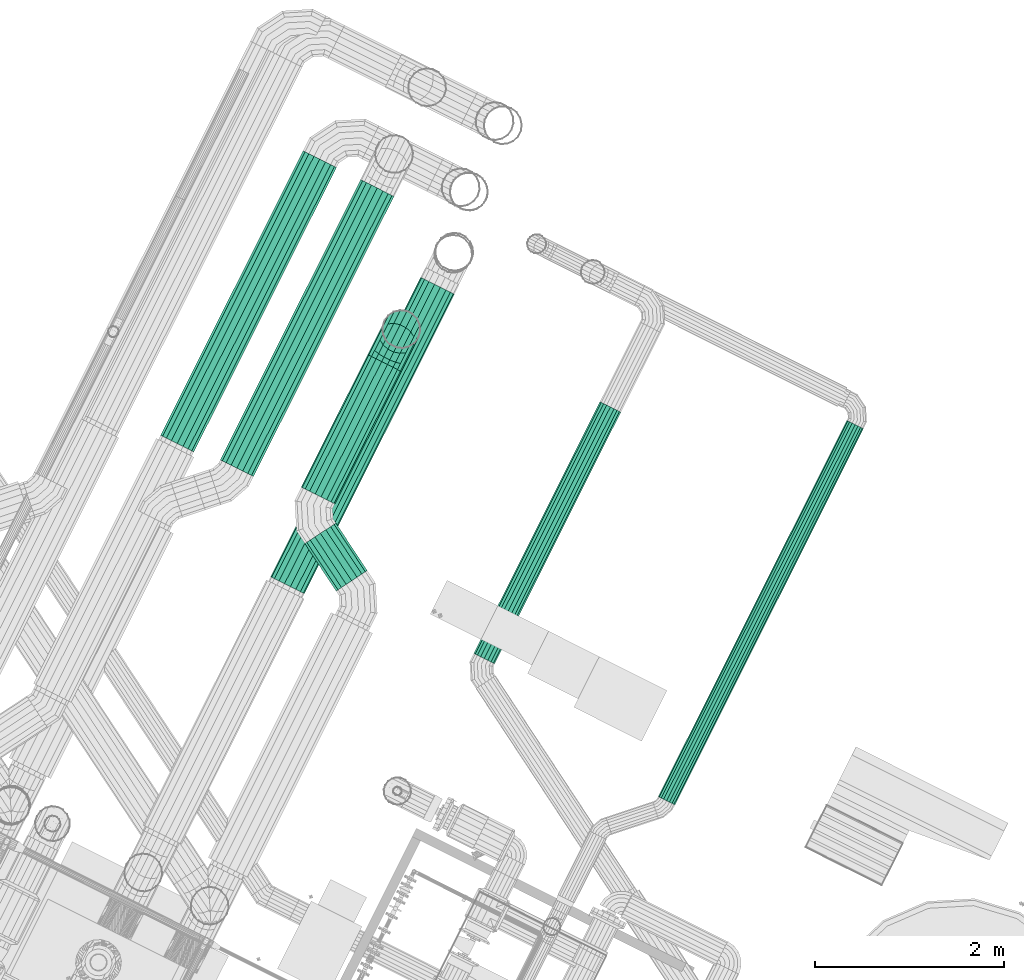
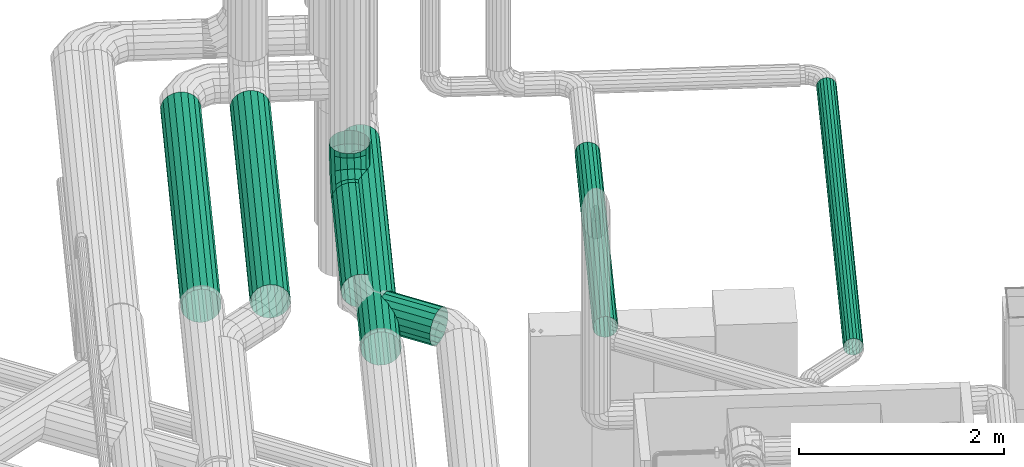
# One storey, part 25 of 206: 7 flow segments, 1 flow fitting.
"""IFC2X3 building model written with IfcOpenShell, lengths in metres."""

from ifc_helpers import new_model, si_unit, derived_unit, direction, frame, origin, place, context, subcontext, project, spatial, face_set, surface_model, source, transform, mapped, material, type_object, type_shapes, element, save


model = new_model("IFC2X3")

# Units and contexts
model_context = context("Model", 3, precision=5.2338327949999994e-05, world=origin(), true_north=direction((0.0, 1.0)))
body_context = subcontext(model_context, "Body", "Model", "MODEL_VIEW")
ifc_project = project(units=[si_unit("LENGTHUNIT", "METRE"), si_unit("AREAUNIT", "SQUARE_METRE"), si_unit("VOLUMEUNIT", "CUBIC_METRE"), si_unit("MASSUNIT", "GRAM", prefix="KILO"), si_unit("PLANEANGLEUNIT", "RADIAN"), derived_unit("THERMALTRANSMITTANCEUNIT", [(si_unit("MASSUNIT", "GRAM", prefix="KILO"), 1), (si_unit("THERMODYNAMICTEMPERATUREUNIT", "KELVIN"), -1), (si_unit("TIMEUNIT", "SECOND"), -3)])], contexts=[model_context])

# Site, building, storey
site_placement = place(None, frame((0.0, 0.0, 0.0), z_axis=(0.0, 0.0, 1.0), x_axis=(0.8939966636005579, -0.4480736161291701, 0.0)))
site = spatial("IfcSite", under=ifc_project, at=site_placement, Name="Default", CompositionType="ELEMENT")
building_placement = place(site_placement, origin())
building = spatial("IfcBuilding", under=site, at=building_placement, CompositionType="ELEMENT")
storey_placement = place(building_placement, origin())
storey = spatial("IfcBuildingStorey", under=building, at=storey_placement, Name="Erdgeschoss", CompositionType="ELEMENT", Elevation=0.0)

# Flow segment
ifc_material = material(Name="IfcSurfaceStyle #251447")
distribution_element_type_1 = type_object("IfcDistributionElementType", Name="Wickelfalzrohr 293792:Wickelfalzrohr 293792", material=ifc_material)
shared_shape_1 = source(origin(), body_context, "Body", "SurfaceModel", [
    surface_model("IfcFaceBasedSurfaceModel", [(28.73772098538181, 12.068093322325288, 2.0750000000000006), (28.694968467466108, 12.068093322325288, 2.082538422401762), (28.694968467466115, 15.044603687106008, 2.082538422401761), (28.737720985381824, 15.044603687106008, 2.0749999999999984), (28.657372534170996, 12.068093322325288, 2.104244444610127), (28.657372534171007, 15.044603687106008, 2.1042444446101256), (28.62946780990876, 12.068093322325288, 2.137500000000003), (28.629467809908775, 15.044603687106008, 2.137500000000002), (28.61462001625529, 12.068093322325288, 2.178293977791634), (28.6146200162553, 15.044603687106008, 2.178293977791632), (28.614620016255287, 12.068093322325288, 2.2217060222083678), (28.614620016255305, 15.044603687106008, 2.2217060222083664), (28.629467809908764, 12.068093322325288, 2.262500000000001), (28.629467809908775, 15.04460368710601, 2.262499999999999), (28.657372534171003, 12.068093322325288, 2.2957555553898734), (28.65737253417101, 15.044603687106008, 2.2957555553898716), (28.694968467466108, 12.068093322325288, 2.3174615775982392), (28.69496846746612, 15.044603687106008, 2.3174615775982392), (28.737720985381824, 12.068093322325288, 2.3249999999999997), (28.737720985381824, 15.044603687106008, 2.324999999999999), (28.780473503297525, 12.068093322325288, 2.3174615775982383), (28.780473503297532, 15.044603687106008, 2.3174615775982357), (28.818069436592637, 12.068093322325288, 2.2957555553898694), (28.818069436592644, 15.044603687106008, 2.2957555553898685), (28.845974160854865, 12.068093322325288, 2.2624999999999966), (28.845974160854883, 15.044603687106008, 2.2624999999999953), (28.86082195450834, 12.068093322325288, 2.221706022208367), (28.860821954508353, 15.044603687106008, 2.221706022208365), (28.86082195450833, 12.068093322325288, 2.178293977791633), (28.860821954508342, 15.044603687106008, 2.178293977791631), (28.845974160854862, 12.068093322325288, 2.1374999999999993), (28.84597416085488, 15.044603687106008, 2.1374999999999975), (28.818069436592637, 12.068093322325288, 2.104244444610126), (28.818069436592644, 15.044603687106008, 2.1042444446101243), (28.780473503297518, 12.068093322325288, 2.082538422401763), (28.78047350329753, 15.044603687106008, 2.08253842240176)], [face_set([[[0, 1, 2, 3]], [[1, 4, 5, 2]], [[4, 6, 7, 5]], [[6, 8, 9, 7]], [[8, 10, 11, 9]], [[10, 12, 13, 11]], [[12, 14, 15, 13]], [[14, 16, 17, 15]], [[16, 18, 19, 17]], [[18, 20, 21, 19]], [[20, 22, 23, 21]], [[22, 24, 25, 23]], [[24, 26, 27, 25]], [[26, 28, 29, 27]], [[28, 30, 31, 29]], [[30, 32, 33, 31]], [[32, 34, 35, 33]], [[34, 0, 3, 35]]])]),
])
type_shapes(distribution_element_type_1, [shared_shape_1])
flow_segment_1_placement = place(storey_placement, origin())
element("IfcFlowSegment", 1, at=flow_segment_1_placement, inside=storey, type_object=distribution_element_type_1, material=ifc_material, Name="Wickelfalzrohr", ObjectType="Wickelfalzrohr", context=body_context, shape_type="MappedRepresentation", body=[
    mapped(shared_shape_1, transform((0.0, 0.0, 0.0), scale=1.0)),
])

# Flow fitting
distribution_element_type_2 = type_object("IfcDistributionElementType", Name="Segmentbogen 4 teilig 294590:Segmentbogen 4 teilig 294590", material=ifc_material)
shared_shape_2 = source(origin(), body_context, "Body", "SurfaceModel", [
    surface_model("IfcFaceBasedSurfaceModel", [(26.194161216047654, 14.388691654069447, 2.1999999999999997), (26.206222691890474, 14.388691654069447, 2.268404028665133), (26.206222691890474, 14.47754252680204, 2.268404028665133), (26.194161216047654, 14.495871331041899, 2.2), (26.24095232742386, 14.388691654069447, 2.3285575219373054), (26.24095232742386, 14.46142444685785, 2.3285575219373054), (26.29416121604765, 14.388691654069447, 2.3732050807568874), (26.29416121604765, 14.449461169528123, 2.3732050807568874), (26.35943158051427, 14.388691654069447, 2.396961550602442), (26.35943158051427, 14.443095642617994, 2.396961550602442), (26.428890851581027, 14.388691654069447, 2.396961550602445), (26.428890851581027, 14.443095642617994, 2.396961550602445), (26.494161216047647, 14.388691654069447, 2.3732050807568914), (26.494161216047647, 14.449461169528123, 2.3732050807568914), (26.547370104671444, 14.388691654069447, 2.3285575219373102), (26.547370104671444, 14.46142444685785, 2.3285575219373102), (26.58209974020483, 14.388691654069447, 2.268404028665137), (26.58209974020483, 14.477542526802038, 2.268404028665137), (26.594161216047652, 14.388691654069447, 2.2000000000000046), (26.59416121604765, 14.495871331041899, 2.1999999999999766), (26.58209974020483, 14.388691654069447, 2.1315959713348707), (26.58209974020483, 14.514200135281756, 2.1315959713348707), (26.547370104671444, 14.388691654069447, 2.071442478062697), (26.547370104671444, 14.530318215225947, 2.071442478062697), (26.494161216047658, 14.388691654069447, 2.026794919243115), (26.494161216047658, 14.542281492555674, 2.026794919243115), (26.428890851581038, 14.388691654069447, 2.0030384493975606), (26.428890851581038, 14.548647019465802, 2.0030384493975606), (26.359431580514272, 14.388691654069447, 2.00303844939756), (26.359431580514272, 14.548647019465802, 2.00303844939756), (26.294161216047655, 14.388691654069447, 2.026794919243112), (26.294161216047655, 14.542281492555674, 2.026794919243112), (26.240952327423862, 14.388691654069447, 2.0714424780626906), (26.240952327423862, 14.530318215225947, 2.0714424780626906), (26.20622269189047, 14.388691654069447, 2.131595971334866), (26.20622269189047, 14.514200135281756, 2.131595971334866), (26.20622269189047, 14.631436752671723, 2.3572549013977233), (26.194161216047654, 14.681511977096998, 2.307179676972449), (26.240952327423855, 14.587401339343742, 2.4012903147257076), (26.29416121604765, 14.554717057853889, 2.4339745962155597), (26.359431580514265, 14.537326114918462, 2.4513655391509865), (26.428890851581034, 14.537326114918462, 2.451365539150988), (26.494161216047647, 14.554717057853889, 2.4339745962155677), (26.547370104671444, 14.58740133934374, 2.4012903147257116), (26.582099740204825, 14.631436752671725, 2.3572549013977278), (26.59416121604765, 14.681511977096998, 2.3071796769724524), (26.582099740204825, 14.731587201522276, 2.257104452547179), (26.547370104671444, 14.77562261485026, 2.213069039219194), (26.494161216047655, 14.808306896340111, 2.1803847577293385), (26.428890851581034, 14.825697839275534, 2.1629938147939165), (26.35943158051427, 14.825697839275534, 2.162993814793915), (26.294161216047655, 14.808306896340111, 2.1803847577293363), (26.240952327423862, 14.77562261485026, 2.2130690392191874), (26.206222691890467, 14.731587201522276, 2.257104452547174), (26.206222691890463, 14.720287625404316, 2.51114912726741), (26.194161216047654, 14.788691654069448, 2.49282032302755), (26.240952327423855, 14.660134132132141, 2.5272672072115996), (26.29416121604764, 14.61548657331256, 2.539230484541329), (26.35943158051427, 14.591730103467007, 2.545596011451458), (26.428890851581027, 14.591730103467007, 2.545596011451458), (26.494161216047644, 14.61548657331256, 2.5392304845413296), (26.547370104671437, 14.660134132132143, 2.5272672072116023), (26.582099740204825, 14.720287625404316, 2.5111491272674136), (26.594161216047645, 14.788691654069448, 2.4928203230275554), (26.58209974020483, 14.857095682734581, 2.4744915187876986), (26.547370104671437, 14.917249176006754, 2.4583734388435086), (26.494161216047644, 14.961896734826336, 2.4464101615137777), (26.428890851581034, 14.985653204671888, 2.440044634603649), (26.359431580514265, 14.985653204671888, 2.440044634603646), (26.294161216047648, 14.961896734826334, 2.446410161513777), (26.24095232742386, 14.917249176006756, 2.4583734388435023), (26.20622269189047, 14.857095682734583, 2.4744915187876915), (26.206222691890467, 14.720287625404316, 2.6), (26.194161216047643, 14.788691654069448, 2.6), (26.240952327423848, 14.660134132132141, 2.6), (26.29416121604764, 14.61548657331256, 2.6), (26.359431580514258, 14.591730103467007, 2.6000000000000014), (26.428890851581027, 14.591730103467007, 2.6000000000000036), (26.49416121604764, 14.61548657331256, 2.6000000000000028), (26.547370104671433, 14.660134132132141, 2.6000000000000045), (26.582099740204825, 14.720287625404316, 2.600000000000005), (26.594161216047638, 14.788691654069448, 2.6000000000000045), (26.58209974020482, 14.857095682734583, 2.600000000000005), (26.547370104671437, 14.917249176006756, 2.6000000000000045), (26.49416121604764, 14.961896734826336, 2.6000000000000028), (26.428890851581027, 14.98565320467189, 2.6000000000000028), (26.359431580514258, 14.985653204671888, 2.6000000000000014), (26.29416121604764, 14.961896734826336, 2.6), (26.240952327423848, 14.917249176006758, 2.6), (26.206222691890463, 14.857095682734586, 2.6)], [face_set([[[0, 1, 2, 3]], [[1, 4, 5, 2]], [[4, 6, 7, 5]], [[6, 8, 9, 7]], [[8, 10, 11, 9]], [[10, 12, 13, 11]], [[12, 14, 15, 13]], [[14, 16, 17, 15]], [[16, 18, 19, 17]], [[18, 20, 21, 19]], [[20, 22, 23, 21]], [[22, 24, 25, 23]], [[24, 26, 27, 25]], [[26, 28, 29, 27]], [[28, 30, 31, 29]], [[30, 32, 33, 31]], [[32, 34, 35, 33]], [[34, 0, 3, 35]], [[3, 2, 36, 37]], [[2, 5, 38, 36]], [[5, 7, 39, 38]], [[7, 9, 40, 39]], [[9, 11, 41, 40]], [[11, 13, 42, 41]], [[13, 15, 43, 42]], [[15, 17, 44, 43]], [[17, 19, 45, 44]], [[19, 21, 46, 45]], [[21, 23, 47, 46]], [[23, 25, 48, 47]], [[25, 27, 49, 48]], [[27, 29, 50, 49]], [[29, 31, 51, 50]], [[31, 33, 52, 51]], [[33, 35, 53, 52]], [[35, 3, 37, 53]], [[37, 36, 54, 55]], [[36, 38, 56, 54]], [[38, 39, 57, 56]], [[39, 40, 58, 57]], [[40, 41, 59, 58]], [[41, 42, 60, 59]], [[42, 43, 61, 60]], [[43, 44, 62, 61]], [[44, 45, 63, 62]], [[45, 46, 64, 63]], [[46, 47, 65, 64]], [[47, 48, 66, 65]], [[48, 49, 67, 66]], [[49, 50, 68, 67]], [[50, 51, 69, 68]], [[51, 52, 70, 69]], [[52, 53, 71, 70]], [[53, 37, 55, 71]], [[55, 54, 72, 73]], [[54, 56, 74, 72]], [[56, 57, 75, 74]], [[57, 58, 76, 75]], [[58, 59, 77, 76]], [[59, 60, 78, 77]], [[60, 61, 79, 78]], [[61, 62, 80, 79]], [[62, 63, 81, 80]], [[63, 64, 82, 81]], [[64, 65, 83, 82]], [[65, 66, 84, 83]], [[66, 67, 85, 84]], [[67, 68, 86, 85]], [[68, 69, 87, 86]], [[69, 70, 88, 87]], [[70, 71, 89, 88]], [[71, 55, 73, 89]]])]),
])
type_shapes(distribution_element_type_2, [shared_shape_2])
flow_fitting_placement = place(storey_placement, origin())
element("IfcFlowFitting", 2, at=flow_fitting_placement, inside=storey, type_object=distribution_element_type_2, material=ifc_material, Name="Segmentbogen 4 teilig", ObjectType="Segmentbogen 4 teilig", context=body_context, shape_type="MappedRepresentation", body=[
    mapped(shared_shape_2, transform((0.0, 0.0, 0.0), scale=1.0)),
])

# Flow segments
distribution_element_type_3 = type_object("IfcDistributionElementType", Name="Wickelfalzrohr 295136:Wickelfalzrohr 295136", material=ifc_material)
shared_shape_3 = source(origin(), body_context, "Body", "SurfaceModel", [
    surface_model("IfcFaceBasedSurfaceModel", [(27.115508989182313, 12.174618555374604, 2.4000000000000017), (27.149711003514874, 12.233858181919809, 2.3879385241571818), (26.628363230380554, 12.534858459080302, 2.387938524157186), (26.59416121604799, 12.475618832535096, 2.4000000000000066), (27.17978775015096, 12.285952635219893, 2.353208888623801), (26.658439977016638, 12.586952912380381, 2.353208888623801), (27.202111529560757, 12.324618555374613, 2.3000000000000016), (26.680763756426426, 12.625618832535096, 2.300000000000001), (27.213989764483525, 12.3451922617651, 2.234729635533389), (26.692641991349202, 12.646192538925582, 2.234729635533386), (27.213989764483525, 12.3451922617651, 2.165270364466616), (26.692641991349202, 12.64619253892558, 2.1652703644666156), (27.20211152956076, 12.324618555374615, 2.1000000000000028), (26.680763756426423, 12.625618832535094, 2.1000000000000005), (27.179787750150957, 12.285952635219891, 2.046791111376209), (26.658439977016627, 12.586952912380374, 2.046791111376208), (27.149711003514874, 12.233858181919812, 2.0120614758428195), (26.628363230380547, 12.534858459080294, 2.0120614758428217), (27.115508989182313, 12.17461855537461, 2.0), (26.594161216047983, 12.475618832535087, 2.0), (27.08130697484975, 12.115378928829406, 2.012061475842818), (26.559959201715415, 12.416379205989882, 2.0120614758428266), (27.05123022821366, 12.06328447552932, 2.046791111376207), (26.52988245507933, 12.364284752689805, 2.046791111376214), (27.02890644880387, 12.024618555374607, 2.1000000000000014), (26.507558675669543, 12.325618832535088, 2.1000000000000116), (27.017028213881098, 12.004044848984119, 2.1652703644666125), (26.495680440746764, 12.3050451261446, 2.1652703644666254), (27.017028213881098, 12.004044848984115, 2.2347296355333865), (26.49568044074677, 12.3050451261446, 2.2347296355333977), (27.02890644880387, 12.024618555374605, 2.3), (26.507558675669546, 12.32561883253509, 2.3000000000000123), (27.05123022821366, 12.06328447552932, 2.3532088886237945), (26.529882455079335, 12.364284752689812, 2.3532088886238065), (27.08130697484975, 12.1153789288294, 2.387938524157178), (26.559959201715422, 12.41637920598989, 2.38793852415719)], [face_set([[[0, 1, 2, 3]], [[1, 4, 5, 2]], [[4, 6, 7, 5]], [[6, 8, 9, 7]], [[8, 10, 11, 9]], [[10, 12, 13, 11]], [[12, 14, 15, 13]], [[14, 16, 17, 15]], [[16, 18, 19, 17]], [[18, 20, 21, 19]], [[20, 22, 23, 21]], [[22, 24, 25, 23]], [[24, 26, 27, 25]], [[26, 28, 29, 27]], [[28, 30, 31, 29]], [[30, 32, 33, 31]], [[32, 34, 35, 33]], [[34, 0, 3, 35]]])]),
])
type_shapes(distribution_element_type_3, [shared_shape_3])
flow_segment_2_placement = place(storey_placement, origin())
element("IfcFlowSegment", 3, at=flow_segment_2_placement, inside=storey, type_object=distribution_element_type_3, material=ifc_material, Name="Wickelfalzrohr", ObjectType="Wickelfalzrohr", context=body_context, shape_type="MappedRepresentation", body=[
    mapped(shared_shape_3, transform((0.0, 0.0, 0.0), scale=1.0)),
])
distribution_element_type_4 = type_object("IfcDistributionElementType", Name="Wickelfalzrohr 296232:Wickelfalzrohr 296232", material=ifc_material)
shared_shape_4 = source(origin(), body_context, "Body", "SurfaceModel", [
    surface_model("IfcFaceBasedSurfaceModel", [(25.496428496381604, 12.695498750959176, 2.400000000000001), (25.564832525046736, 12.695498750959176, 2.3879385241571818), (25.56483252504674, 16.01, 2.387938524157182), (25.496428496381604, 16.01, 2.4000000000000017), (25.624986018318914, 12.695498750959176, 2.3532088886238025), (25.624986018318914, 16.01, 2.353208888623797), (25.669633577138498, 12.695498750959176, 2.3000000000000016), (25.669633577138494, 16.01, 2.3), (25.693390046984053, 12.695498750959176, 2.23472963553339), (25.693390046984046, 16.01, 2.234729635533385), (25.693390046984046, 12.695498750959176, 2.165270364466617), (25.693390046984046, 16.01, 2.165270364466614), (25.6696335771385, 12.695498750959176, 2.1000000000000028), (25.669633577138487, 16.01, 2.0999999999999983), (25.624986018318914, 12.695498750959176, 2.0467911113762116), (25.62498601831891, 16.01, 2.0467911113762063), (25.56483252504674, 12.695498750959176, 2.0120614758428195), (25.564832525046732, 16.01, 2.012061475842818), (25.496428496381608, 12.695498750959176, 2.0), (25.496428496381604, 16.01, 2.0), (25.428024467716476, 12.695498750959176, 2.0120614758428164), (25.42802446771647, 16.01, 2.0120614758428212), (25.367870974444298, 12.695498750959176, 2.0467911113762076), (25.36787097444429, 16.01, 2.04679111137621), (25.32322341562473, 12.695498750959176, 2.099999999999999), (25.323223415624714, 16.01, 2.100000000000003), (25.299466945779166, 12.695498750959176, 2.165270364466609), (25.29946694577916, 16.01, 2.1652703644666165), (25.299466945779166, 12.695498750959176, 2.2347296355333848), (25.299466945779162, 16.01, 2.2347296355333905), (25.323223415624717, 12.695498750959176, 2.299999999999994), (25.323223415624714, 16.01, 2.3000000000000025), (25.367870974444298, 12.695498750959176, 2.3532088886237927), (25.36787097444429, 16.01, 2.3532088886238), (25.428024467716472, 12.695498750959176, 2.3879385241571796), (25.428024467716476, 16.01, 2.3879385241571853)], [face_set([[[0, 1, 2, 3]], [[1, 4, 5, 2]], [[4, 6, 7, 5]], [[6, 8, 9, 7]], [[8, 10, 11, 9]], [[10, 12, 13, 11]], [[12, 14, 15, 13]], [[14, 16, 17, 15]], [[16, 18, 19, 17]], [[18, 20, 21, 19]], [[20, 22, 23, 21]], [[22, 24, 25, 23]], [[24, 26, 27, 25]], [[26, 28, 29, 27]], [[28, 30, 31, 29]], [[30, 32, 33, 31]], [[32, 34, 35, 33]], [[34, 0, 3, 35]]])]),
])
type_shapes(distribution_element_type_4, [shared_shape_4])
flow_segment_3_placement = place(storey_placement, origin())
element("IfcFlowSegment", 4, at=flow_segment_3_placement, inside=storey, type_object=distribution_element_type_4, material=ifc_material, Name="Wickelfalzrohr", ObjectType="Wickelfalzrohr", context=body_context, shape_type="MappedRepresentation", body=[
    mapped(shared_shape_4, transform((0.0, 0.0, 0.0), scale=1.0)),
])
distribution_element_type_5 = type_object("IfcDistributionElementType", Name="Wickelfalzrohr 297042:Wickelfalzrohr 297042", material=ifc_material)
shared_shape_5 = source(origin(), body_context, "Body", "SurfaceModel", [
    surface_model("IfcFaceBasedSurfaceModel", [(26.194161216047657, 14.388691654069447, 2.199999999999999), (26.20622269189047, 14.388691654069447, 2.1315959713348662), (26.20622269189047, 12.822028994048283, 2.1315959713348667), (26.194161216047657, 12.822028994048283, 2.200000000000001), (26.240952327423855, 14.388691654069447, 2.0714424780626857), (26.240952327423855, 12.822028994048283, 2.07144247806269), (26.29416121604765, 14.388691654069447, 2.026794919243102), (26.294161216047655, 12.822028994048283, 2.0267949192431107), (26.359431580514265, 14.388691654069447, 2.0030384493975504), (26.359431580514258, 12.822028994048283, 2.003038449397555), (26.428890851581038, 14.388691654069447, 2.0030384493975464), (26.428890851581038, 12.822028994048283, 2.0030384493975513), (26.494161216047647, 14.388691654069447, 2.026794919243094), (26.494161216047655, 12.822028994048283, 2.0267949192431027), (26.547370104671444, 14.388691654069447, 2.0714424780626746), (26.547370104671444, 12.822028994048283, 2.0714424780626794), (26.582099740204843, 14.388691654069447, 2.131595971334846), (26.582099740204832, 12.822028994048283, 2.1315959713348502), (26.594161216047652, 14.388691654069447, 2.1999999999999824), (26.594161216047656, 12.822028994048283, 2.199999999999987), (26.58209974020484, 14.388691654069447, 2.2684040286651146), (26.582099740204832, 12.822028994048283, 2.2684040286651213), (26.54737010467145, 14.388691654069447, 2.3285575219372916), (26.54737010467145, 12.822028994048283, 2.328557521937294), (26.49416121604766, 14.388691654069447, 2.373205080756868), (26.494161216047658, 12.822028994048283, 2.373205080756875), (26.42889085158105, 14.388691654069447, 2.3969615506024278), (26.42889085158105, 12.822028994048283, 2.396961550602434), (26.359431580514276, 14.388691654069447, 2.3969615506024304), (26.359431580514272, 12.822028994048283, 2.396961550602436), (26.294161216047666, 14.388691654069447, 2.373205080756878), (26.294161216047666, 12.822028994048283, 2.373205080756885), (26.240952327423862, 14.388691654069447, 2.3285575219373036), (26.240952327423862, 12.822028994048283, 2.3285575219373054), (26.20622269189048, 14.388691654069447, 2.268404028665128), (26.20622269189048, 12.822028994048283, 2.2684040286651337)], [face_set([[[0, 1, 2, 3]], [[1, 4, 5, 2]], [[4, 6, 7, 5]], [[6, 8, 9, 7]], [[8, 10, 11, 9]], [[10, 12, 13, 11]], [[12, 14, 15, 13]], [[14, 16, 17, 15]], [[16, 18, 19, 17]], [[18, 20, 21, 19]], [[20, 22, 23, 21]], [[22, 24, 25, 23]], [[24, 26, 27, 25]], [[26, 28, 29, 27]], [[28, 30, 31, 29]], [[30, 32, 33, 31]], [[32, 34, 35, 33]], [[34, 0, 3, 35]]])]),
])
type_shapes(distribution_element_type_5, [shared_shape_5])
flow_segment_4_placement = place(storey_placement, origin())
element("IfcFlowSegment", 5, at=flow_segment_4_placement, inside=storey, type_object=distribution_element_type_5, material=ifc_material, Name="Wickelfalzrohr", ObjectType="Wickelfalzrohr", context=body_context, shape_type="MappedRepresentation", body=[
    mapped(shared_shape_5, transform((0.0, 0.0, 0.0), scale=1.0)),
])
distribution_element_type_6 = type_object("IfcDistributionElementType", Name="Wickelfalzrohr 619300:Wickelfalzrohr 619300", material=ifc_material)
shared_shape_6 = source(origin(), body_context, "Body", "SurfaceModel", [
    surface_model("IfcFaceBasedSurfaceModel", [(31.135087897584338, 16.03711232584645, 2.1000000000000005), (31.169289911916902, 16.03711232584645, 2.1060307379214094), (31.1692899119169, 11.586176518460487, 2.106030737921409), (31.135087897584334, 11.586176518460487, 2.1), (31.199366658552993, 16.03711232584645, 2.1233955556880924), (31.199366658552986, 11.586176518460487, 2.1233955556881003), (31.221690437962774, 16.03711232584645, 2.1499999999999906), (31.22169043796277, 11.586176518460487, 2.149999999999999), (31.233568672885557, 16.03711232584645, 2.1826351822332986), (31.233568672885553, 11.586176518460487, 2.182635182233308), (31.233568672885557, 16.03711232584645, 2.2173648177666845), (31.233568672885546, 11.586176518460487, 2.217364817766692), (31.22169043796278, 16.03711232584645, 2.249999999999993), (31.221690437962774, 11.586176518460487, 2.2499999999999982), (31.199366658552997, 16.03711232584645, 2.2766044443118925), (31.19936665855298, 11.586176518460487, 2.2766044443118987), (31.169289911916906, 16.03711232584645, 2.293969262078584), (31.169289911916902, 11.586176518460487, 2.2939692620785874), (31.135087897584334, 16.03711232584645, 2.300000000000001), (31.135087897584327, 11.586176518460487, 2.3000000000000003), (31.100885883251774, 16.03711232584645, 2.2939692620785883), (31.100885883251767, 11.586176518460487, 2.2939692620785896), (31.070809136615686, 16.03711232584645, 2.276604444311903), (31.07080913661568, 11.586176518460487, 2.2766044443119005), (31.0484853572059, 16.03711232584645, 2.2500000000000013), (31.048485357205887, 11.586176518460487, 2.2500000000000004), (31.036607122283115, 16.03711232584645, 2.2173648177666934), (31.036607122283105, 11.586176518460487, 2.2173648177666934), (31.036607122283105, 16.03711232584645, 2.1826351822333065), (31.036607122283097, 11.586176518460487, 2.1826351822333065), (31.048485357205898, 16.03711232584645, 2.1499999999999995), (31.048485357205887, 11.586176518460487, 2.1500000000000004), (31.070809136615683, 16.03711232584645, 2.1233955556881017), (31.070809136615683, 11.586176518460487, 2.1233955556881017), (31.10088588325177, 16.03711232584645, 2.10603073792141), (31.10088588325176, 11.586176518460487, 2.10603073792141)], [face_set([[[0, 1, 2, 3]], [[1, 4, 5, 2]], [[4, 6, 7, 5]], [[6, 8, 9, 7]], [[8, 10, 11, 9]], [[10, 12, 13, 11]], [[12, 14, 15, 13]], [[14, 16, 17, 15]], [[16, 18, 19, 17]], [[18, 20, 21, 19]], [[20, 22, 23, 21]], [[22, 24, 25, 23]], [[24, 26, 27, 25]], [[26, 28, 29, 27]], [[28, 30, 31, 29]], [[30, 32, 33, 31]], [[32, 34, 35, 33]], [[34, 0, 3, 35]]])]),
])
type_shapes(distribution_element_type_6, [shared_shape_6])
flow_segment_5_placement = place(storey_placement, origin())
element("IfcFlowSegment", 6, at=flow_segment_5_placement, inside=storey, type_object=distribution_element_type_6, material=ifc_material, Name="Wickelfalzrohr", ObjectType="Wickelfalzrohr", context=body_context, shape_type="MappedRepresentation", body=[
    mapped(shared_shape_6, transform((0.0, 0.0, 0.0), scale=1.0)),
])
distribution_element_type_7 = type_object("IfcDistributionElementType", Name="Wickelfalzrohr 621365:Wickelfalzrohr 621365", material=ifc_material)
shared_shape_7 = source(origin(), body_context, "Body", "SurfaceModel", [
    surface_model("IfcFaceBasedSurfaceModel", [(26.328825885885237, 11.828208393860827, 2.2000000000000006), (26.340887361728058, 11.828208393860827, 2.2684040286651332), (26.340887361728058, 15.37101345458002, 2.2684040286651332), (26.328825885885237, 15.37101345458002, 2.1999999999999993), (26.37561699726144, 11.828208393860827, 2.3285575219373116), (26.375616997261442, 15.37101345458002, 2.3285575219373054), (26.428825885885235, 11.828208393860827, 2.3732050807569), (26.428825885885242, 15.37101345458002, 2.373205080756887), (26.49409625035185, 11.828208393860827, 2.3969615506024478), (26.494096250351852, 15.37101345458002, 2.3969615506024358), (26.563555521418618, 11.828208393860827, 2.3969615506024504), (26.56355552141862, 15.37101345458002, 2.396961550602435), (26.628825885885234, 11.828208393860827, 2.3732050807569), (26.628825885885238, 15.37101345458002, 2.3732050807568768), (26.68203477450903, 11.828208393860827, 2.328557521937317), (26.68203477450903, 15.37101345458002, 2.328557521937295), (26.71676441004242, 11.828208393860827, 2.268404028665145), (26.71676441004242, 15.37101345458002, 2.2684040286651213), (26.728825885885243, 11.828208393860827, 2.200000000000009), (26.728825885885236, 15.37101345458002, 2.199999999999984), (26.716764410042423, 11.828208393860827, 2.131595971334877), (26.71676441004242, 15.37101345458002, 2.131595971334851), (26.682034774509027, 11.828208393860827, 2.0714424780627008), (26.682034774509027, 15.37101345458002, 2.071442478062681), (26.628825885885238, 11.828208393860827, 2.0267949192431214), (26.62882588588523, 15.37101345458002, 2.0267949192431), (26.56355552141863, 11.828208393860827, 2.003038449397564), (26.56355552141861, 15.37101345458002, 2.0030384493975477), (26.49409625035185, 11.828208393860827, 2.003038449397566), (26.494096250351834, 15.37101345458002, 2.0030384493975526), (26.428825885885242, 11.828208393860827, 2.0267949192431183), (26.42882588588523, 15.37101345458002, 2.026794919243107), (26.37561699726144, 11.828208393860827, 2.071442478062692), (26.37561699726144, 15.37101345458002, 2.071442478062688), (26.34088736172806, 11.828208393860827, 2.1315959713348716), (26.34088736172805, 15.37101345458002, 2.1315959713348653)], [face_set([[[0, 1, 2, 3]], [[1, 4, 5, 2]], [[4, 6, 7, 5]], [[6, 8, 9, 7]], [[8, 10, 11, 9]], [[10, 12, 13, 11]], [[12, 14, 15, 13]], [[14, 16, 17, 15]], [[16, 18, 19, 17]], [[18, 20, 21, 19]], [[20, 22, 23, 21]], [[22, 24, 25, 23]], [[24, 26, 27, 25]], [[26, 28, 29, 27]], [[28, 30, 31, 29]], [[30, 32, 33, 31]], [[32, 34, 35, 33]], [[34, 0, 3, 35]]])]),
])
type_shapes(distribution_element_type_7, [shared_shape_7])
flow_segment_6_placement = place(storey_placement, origin())
element("IfcFlowSegment", 7, at=flow_segment_6_placement, inside=storey, type_object=distribution_element_type_7, material=ifc_material, Name="Wickelfalzrohr", ObjectType="Wickelfalzrohr", context=body_context, shape_type="MappedRepresentation", body=[
    mapped(shared_shape_7, transform((0.0, 0.0, 0.0), scale=1.0)),
])
distribution_element_type_8 = type_object("IfcDistributionElementType", Name="Wickelfalzrohr 621566:Wickelfalzrohr 621566", material=ifc_material)
shared_shape_8 = source(origin(), body_context, "Body", "SurfaceModel", [
    surface_model("IfcFaceBasedSurfaceModel", [(24.815704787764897, 12.645430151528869, 2.410000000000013), (24.88410881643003, 12.645430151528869, 2.397938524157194), (24.88410881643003, 16.01, 2.397938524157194), (24.815704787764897, 16.01, 2.410000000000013), (24.944262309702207, 12.645430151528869, 2.3632088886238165), (24.944262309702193, 16.01, 2.3632088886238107), (24.98890986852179, 12.645430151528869, 2.310000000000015), (24.988909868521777, 16.01, 2.3100000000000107), (25.012666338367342, 12.645430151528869, 2.244729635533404), (25.01266633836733, 16.01, 2.2447296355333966), (25.012666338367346, 12.645430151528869, 2.1752703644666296), (25.01266633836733, 16.01, 2.1752703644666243), (24.988909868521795, 12.645430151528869, 2.110000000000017), (24.988909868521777, 16.01, 2.110000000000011), (24.94426230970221, 12.645430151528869, 2.056791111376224), (24.944262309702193, 16.01, 2.0567911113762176), (24.884108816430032, 12.645430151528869, 2.022061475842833), (24.884108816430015, 16.01, 2.0220614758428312), (24.8157047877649, 12.645430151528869, 2.010000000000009), (24.815704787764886, 16.01, 2.0100000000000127), (24.74730075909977, 12.645430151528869, 2.022061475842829), (24.74730075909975, 16.01, 2.0220614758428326), (24.687147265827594, 12.645430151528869, 2.0567911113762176), (24.68714726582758, 16.01, 2.05679111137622), (24.64249970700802, 12.645430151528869, 2.110000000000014), (24.642499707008, 16.01, 2.110000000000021), (24.618743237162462, 12.645430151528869, 2.175270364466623), (24.618743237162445, 16.01, 2.175270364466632), (24.618743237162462, 12.645430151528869, 2.244729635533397), (24.618743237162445, 16.01, 2.244729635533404), (24.64249970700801, 12.645430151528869, 2.310000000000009), (24.642499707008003, 16.01, 2.310000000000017), (24.68714726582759, 12.645430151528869, 2.3632088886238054), (24.68714726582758, 16.01, 2.363208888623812), (24.747300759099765, 12.645430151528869, 2.397938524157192), (24.747300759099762, 16.01, 2.397938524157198)], [face_set([[[0, 1, 2, 3]], [[1, 4, 5, 2]], [[4, 6, 7, 5]], [[6, 8, 9, 7]], [[8, 10, 11, 9]], [[10, 12, 13, 11]], [[12, 14, 15, 13]], [[14, 16, 17, 15]], [[16, 18, 19, 17]], [[18, 20, 21, 19]], [[20, 22, 23, 21]], [[22, 24, 25, 23]], [[24, 26, 27, 25]], [[26, 28, 29, 27]], [[28, 30, 31, 29]], [[30, 32, 33, 31]], [[32, 34, 35, 33]], [[34, 0, 3, 35]]])]),
])
type_shapes(distribution_element_type_8, [shared_shape_8])
flow_segment_7_placement = place(storey_placement, origin())
element("IfcFlowSegment", 8, at=flow_segment_7_placement, inside=storey, type_object=distribution_element_type_8, material=ifc_material, Name="Wickelfalzrohr", ObjectType="Wickelfalzrohr", context=body_context, shape_type="MappedRepresentation", body=[
    mapped(shared_shape_8, transform((0.0, 0.0, 0.0), scale=1.0)),
])

save(model, "model.ifc")
